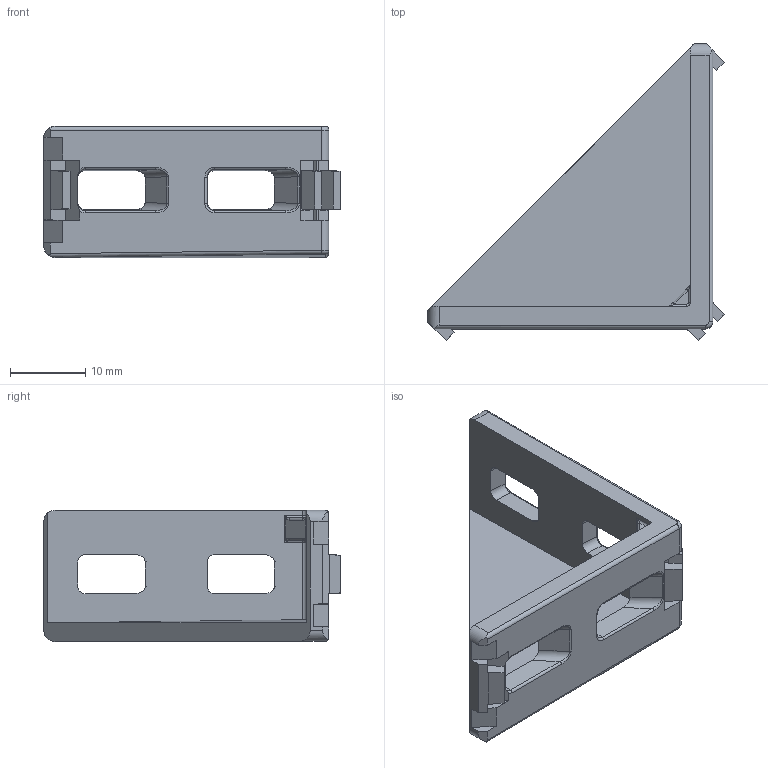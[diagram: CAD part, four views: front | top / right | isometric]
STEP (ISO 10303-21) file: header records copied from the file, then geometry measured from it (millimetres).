
FILE_DESCRIPTION(/* description */ ('www.motedis.com/part/S5IBR2040','CAx-IF Rec.Pracs.---Representation and Presentation of Product Manufacturing Information (PMI)---4.0---2014-10-13'),/* implementation_level */ '2;1');
FILE_NAME(/* name */ 'Motedis_S5IBR2040.stp',/* time_stamp */ '2026-08-26T10:21:17+02:00',/* author */ ('Motedis'),/* organization */ ('Motedis GmbH'),/* preprocessor_version */ 'ST-DEVELOPER v20.1',/* originating_system */ 'Autodesk Inventor 2026',/* authorisation */ 'Motedis GmbH');
FILE_SCHEMA (('AP242_MANAGED_MODEL_BASED_3D_ENGINEERING_MIM_LF { 1 0 10303 442 2 1 4 }'));
Length unit declared in the file: millimetre
Products named in the file (1): Motedis_S5IBR2040
Bounding box: 39.5 x 39.5 x 17.5 mm (x, y, z)
Volume: 4506.2 mm3; surface area: 4215.2 mm2
Topology: 1 solids, 1 shells, 164 faces, 437 edges, 271 vertices
Faces by surface type: plane 82, cylinder 50, bspline 32
Entity records: 6480 total; most frequent: CARTESIAN_POINT 2404, ORIENTED_EDGE 866, DIRECTION 810, EDGE_CURVE 433, LINE 272, VECTOR 272, VERTEX_POINT 271, AXIS2_PLACEMENT_3D 269
